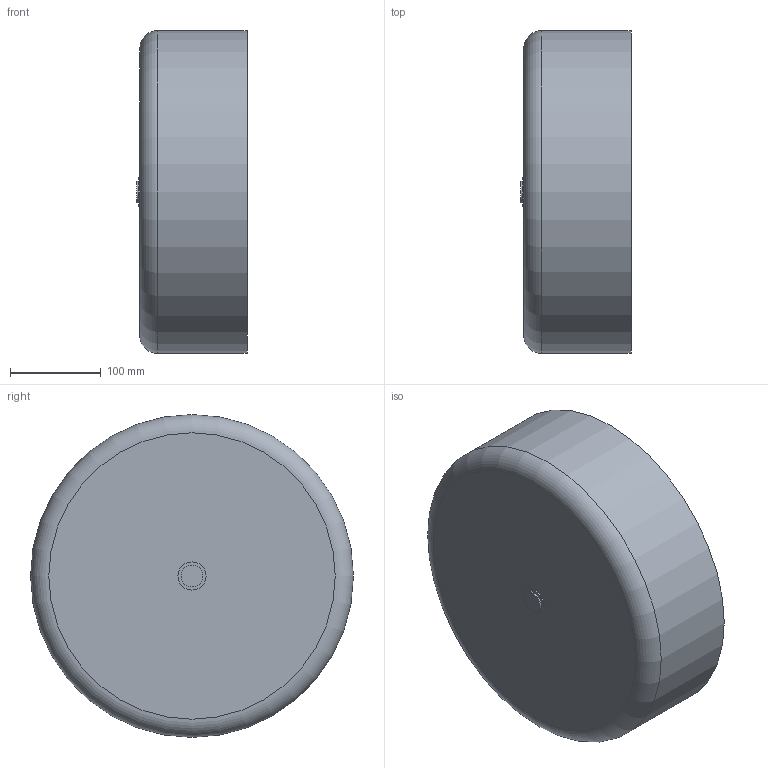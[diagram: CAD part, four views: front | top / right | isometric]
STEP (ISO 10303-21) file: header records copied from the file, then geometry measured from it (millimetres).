
FILE_DESCRIPTION(/* description */ ('Unknown'),/* implementation_level */ '2;1');
FILE_NAME(/* name */ 'CAP355B',/* time_stamp */ '2022-05-17T09:17:27+02:00',/* author */ ('Unknown'),/* organization */ ('Unknown'),/* preprocessor_version */ 'ST-DEVELOPER v18.1',/* originating_system */ 'Solid Edge',/* authorisation */ 'Unknown');
FILE_SCHEMA (('AUTOMOTIVE_DESIGN {1 0 10303 214 3 1 1}'));
Length unit declared in the file: millimetre
Products named in the file (1): CAP355B
Bounding box: 121 x 355 x 355 mm (x, y, z)
Volume: 5292276.1 mm3; surface area: 467647.8 mm2
Topology: 1 solids, 1 shells, 822 faces, 2104 edges, 1215 vertices
Faces by surface type: bspline 471, cylinder 129, torus 90, plane 81, cone 51
Full cylindrical faces by diameter (mm): 24 x1, 31 x1, 312.8 x1, 355 x1
Entity records: 33377 total; most frequent: CARTESIAN_POINT 17894, ORIENTED_EDGE 4040, DIRECTION 2144, EDGE_CURVE 2020, VERTEX_POINT 1212, B_SPLINE_CURVE_WITH_KNOTS 1200, AXIS2_PLACEMENT_3D 972, EDGE_LOOP 834
